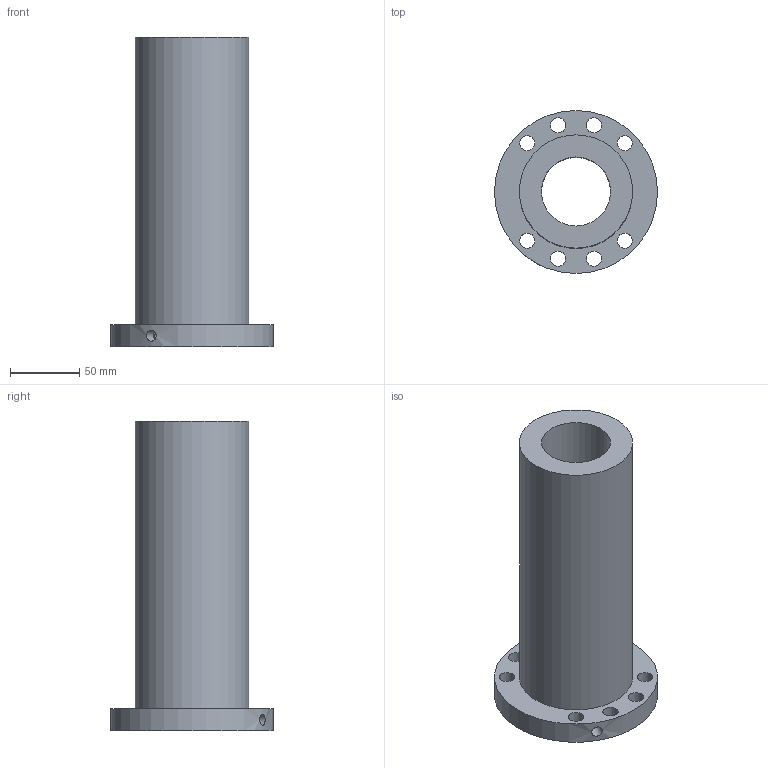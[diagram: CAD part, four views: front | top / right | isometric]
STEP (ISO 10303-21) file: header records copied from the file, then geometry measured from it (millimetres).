
FILE_DESCRIPTION(/* description */ (''),/* implementation_level */ '2;1');
FILE_NAME(/* name */ '50-16K5_635',/* time_stamp */ '2007-10-15T12:53:55+08:00',/* author */ (''),/* organization */ (''),/* preprocessor_version */ 'ST-DEVELOPER v11',/* originating_system */ 'UGS - NX 5.0',/* authorisation */ '');
FILE_SCHEMA (('CONFIG_CONTROL_DESIGN'));
Length unit declared in the file: millimetre
Products named in the file (1): 50-16K5_635
Bounding box: 118 x 118 x 224 mm (x, y, z)
Volume: 820258.3 mm3; surface area: 116194.9 mm2
Topology: 1 solids, 1 shells, 17 faces, 40 edges, 27 vertices
Faces by surface type: cylinder 13, plane 4
Full cylindrical faces by diameter (mm): 6 x1, 8 x1, 11 x8, 50 x1, 82 x1, 118 x1
Entity records: 668 total; most frequent: CARTESIAN_POINT 184, DIRECTION 84, FACE_BOUND 52, EDGE_LOOP 52, ORIENTED_EDGE 52, AXIS2_PLACEMENT_3D 42, VERTEX_POINT 26, EDGE_CURVE 26
